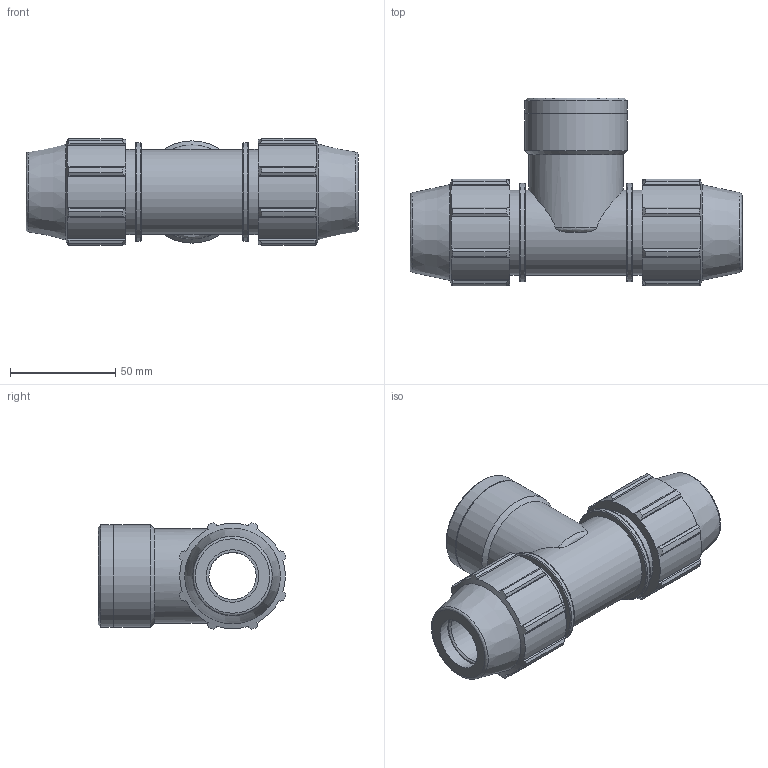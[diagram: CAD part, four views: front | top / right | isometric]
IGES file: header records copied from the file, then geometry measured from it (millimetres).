
Global section: file name: 071400025013_181400025013_0714060250130A.ipt; native system: Autodesk Inventor 2015; preprocessor: unknown; author: KIM; date: 20170606.172147; units: millimetre
Bounding box: 158 x 89.41 x 50.81 mm (x, y, z)
Volume: 217508.8 mm3; surface area: 52815.5 mm2
Topology: 1 solids, 1 shells, 159 faces, 448 edges, 302 vertices
Faces by surface type: plane 79, cylinder 40, cone 23, revolution 17
Full cylindrical faces by diameter (mm): 40.5 x3, 44.795 x1, 46.98 x2, 48.69 x2
